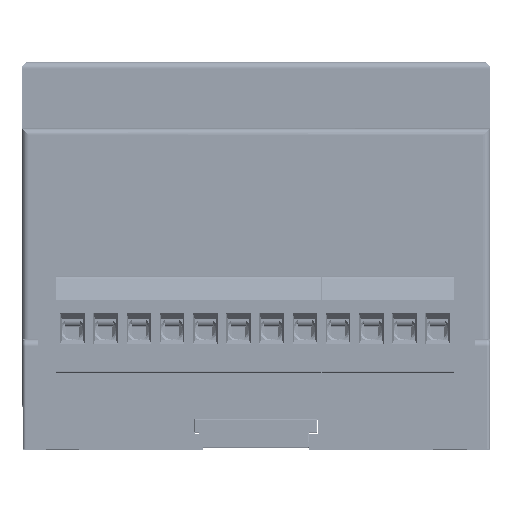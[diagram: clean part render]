
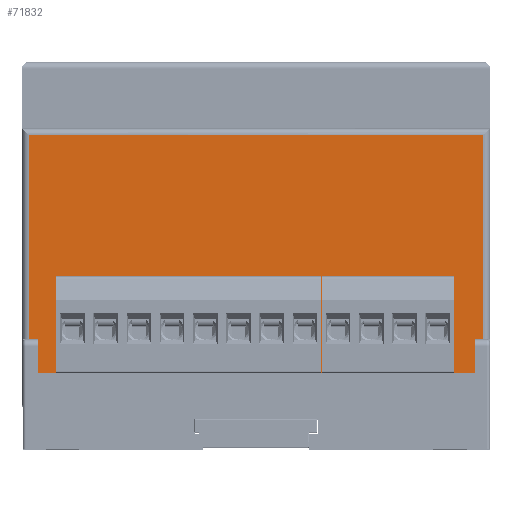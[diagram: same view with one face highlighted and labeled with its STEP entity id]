
A CAD part, top view. The second image highlights one B-rep face of the part: STEP entity #71832.
In plain terms, the highlighted planar face has unit normal (0, 0, 1).
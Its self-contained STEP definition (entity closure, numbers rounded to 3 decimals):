
#993 = VERTEX_POINT ( 'NONE', #4190 ) ;
#4190 = CARTESIAN_POINT ( 'NONE',  ( 69.5, -9., 0. ) ) ;
#6595 = VECTOR ( 'NONE', #217903, 1000. ) ;
#15566 = ORIENTED_EDGE ( 'NONE', *, *, #209081, .T. ) ;
#17123 = LINE ( 'NONE', #96138, #119976 ) ;
#20153 = PLANE ( 'NONE',  #202647 ) ;
#26742 = VECTOR ( 'NONE', #64701, 1000. ) ;
#29003 = EDGE_CURVE ( 'NONE', #177572, #993, #72668, .T. ) ;
#29044 = LINE ( 'NONE', #193554, #115608 ) ;
#40286 = LINE ( 'NONE', #135643, #218811 ) ;
#42444 = ORIENTED_EDGE ( 'NONE', *, *, #98927, .F. ) ;
#46449 = DIRECTION ( 'NONE',  ( 0., -1., 0. ) ) ;
#49448 = CARTESIAN_POINT ( 'NONE',  ( 3., -5., 0. ) ) ;
#51736 = EDGE_LOOP ( 'NONE', ( #126757, #15566, #138539, #115134, #42444, #120037, #93649, #223911, #203217, #158194 ) ) ;
#52341 = CARTESIAN_POINT ( 'NONE',  ( 1.5, -5., 0. ) ) ;
#53718 = EDGE_CURVE ( 'NONE', #176367, #69587, #64775, .T. ) ;
#54891 = CARTESIAN_POINT ( 'NONE',  ( 0., 31.8, 0. ) ) ;
#56411 = LINE ( 'NONE', #64480, #96911 ) ;
#56450 = VERTEX_POINT ( 'NONE', #114351 ) ;
#58502 = VERTEX_POINT ( 'NONE', #214385 ) ;
#64480 = CARTESIAN_POINT ( 'NONE',  ( 1.5, -9., 0. ) ) ;
#64701 = DIRECTION ( 'NONE',  ( 1., 0., 0. ) ) ;
#64775 = LINE ( 'NONE', #202217, #110839 ) ;
#69587 = VERTEX_POINT ( 'NONE', #124066 ) ;
#71832 = ADVANCED_FACE ( 'NONE', ( #179909 ), #20153, .F. ) ;
#72223 = DIRECTION ( 'NONE',  ( -1., 0., 0. ) ) ;
#72668 = LINE ( 'NONE', #99489, #26742 ) ;
#72950 = CARTESIAN_POINT ( 'NONE',  ( 69.5, 30.8, 0. ) ) ;
#79489 = CARTESIAN_POINT ( 'NONE',  ( 67.5, -5., 0. ) ) ;
#80089 = CARTESIAN_POINT ( 'NONE',  ( 1.5, -9., 0. ) ) ;
#81801 = DIRECTION ( 'NONE',  ( 1., 0., 0. ) ) ;
#83814 = CARTESIAN_POINT ( 'NONE',  ( 1.5, -6.5, 0. ) ) ;
#93649 = ORIENTED_EDGE ( 'NONE', *, *, #129531, .T. ) ;
#94025 = CARTESIAN_POINT ( 'NONE',  ( 1.5, -6.5, 0. ) ) ;
#96138 = CARTESIAN_POINT ( 'NONE',  ( 1.5, -5., 0. ) ) ;
#96911 = VECTOR ( 'NONE', #81801, 1000. ) ;
#98927 = EDGE_CURVE ( 'NONE', #58502, #221694, #216557, .T. ) ;
#99489 = CARTESIAN_POINT ( 'NONE',  ( 70.5, -9., 0. ) ) ;
#100315 = VECTOR ( 'NONE', #173294, 1000. ) ;
#100810 = DIRECTION ( 'NONE',  ( 0., -1., 0. ) ) ;
#103172 = EDGE_CURVE ( 'NONE', #993, #165576, #180960, .T. ) ;
#105096 = EDGE_CURVE ( 'NONE', #133868, #221694, #166476, .T. ) ;
#107344 = DIRECTION ( 'NONE',  ( -1., 0., 0. ) ) ;
#110839 = VECTOR ( 'NONE', #46449, 1000. ) ;
#113314 = VECTOR ( 'NONE', #171078, 1000. ) ;
#114351 = CARTESIAN_POINT ( 'NONE',  ( 69., -6.5, 0. ) ) ;
#115134 = ORIENTED_EDGE ( 'NONE', *, *, #105096, .T. ) ;
#115608 = VECTOR ( 'NONE', #107344, 1000. ) ;
#117691 = CARTESIAN_POINT ( 'NONE',  ( 1., 30.8, 0. ) ) ;
#118964 = CARTESIAN_POINT ( 'NONE',  ( 69.5, 31.8, 0. ) ) ;
#119976 = VECTOR ( 'NONE', #217124, 1000. ) ;
#120037 = ORIENTED_EDGE ( 'NONE', *, *, #190910, .T. ) ;
#120529 = VECTOR ( 'NONE', #188248, 1000. ) ;
#124066 = CARTESIAN_POINT ( 'NONE',  ( 1., -9., 0. ) ) ;
#126757 = ORIENTED_EDGE ( 'NONE', *, *, #53718, .T. ) ;
#129531 = EDGE_CURVE ( 'NONE', #56450, #177572, #40286, .T. ) ;
#133868 = VERTEX_POINT ( 'NONE', #94025 ) ;
#135643 = CARTESIAN_POINT ( 'NONE',  ( 69., -5., 0. ) ) ;
#138539 = ORIENTED_EDGE ( 'NONE', *, *, #170387, .F. ) ;
#158194 = ORIENTED_EDGE ( 'NONE', *, *, #196714, .T. ) ;
#158604 = CARTESIAN_POINT ( 'NONE',  ( 69., -9., 0. ) ) ;
#165576 = VERTEX_POINT ( 'NONE', #72950 ) ;
#166476 = LINE ( 'NONE', #83814, #120529 ) ;
#170387 = EDGE_CURVE ( 'NONE', #133868, #220556, #17123, .T. ) ;
#171078 = DIRECTION ( 'NONE',  ( 0., 1., 0. ) ) ;
#173294 = DIRECTION ( 'NONE',  ( -1., 0., 0. ) ) ;
#175812 = DIRECTION ( 'NONE',  ( 0., 0., -1. ) ) ;
#176367 = VERTEX_POINT ( 'NONE', #117691 ) ;
#177572 = VERTEX_POINT ( 'NONE', #158604 ) ;
#179909 = FACE_OUTER_BOUND ( 'NONE', #51736, .T. ) ;
#180960 = LINE ( 'NONE', #118964, #113314 ) ;
#188248 = DIRECTION ( 'NONE',  ( 0.707, 0.707, 0. ) ) ;
#190594 = LINE ( 'NONE', #79489, #6595 ) ;
#190910 = EDGE_CURVE ( 'NONE', #58502, #56450, #190594, .T. ) ;
#193554 = CARTESIAN_POINT ( 'NONE',  ( 0., 30.8, 0. ) ) ;
#196714 = EDGE_CURVE ( 'NONE', #165576, #176367, #29044, .T. ) ;
#202217 = CARTESIAN_POINT ( 'NONE',  ( 1., 31.8, 0. ) ) ;
#202647 = AXIS2_PLACEMENT_3D ( 'NONE', #54891, #175812, #72223 ) ;
#203217 = ORIENTED_EDGE ( 'NONE', *, *, #103172, .T. ) ;
#209081 = EDGE_CURVE ( 'NONE', #69587, #220556, #56411, .T. ) ;
#214385 = CARTESIAN_POINT ( 'NONE',  ( 67.5, -5., 0. ) ) ;
#216557 = LINE ( 'NONE', #52341, #100315 ) ;
#217124 = DIRECTION ( 'NONE',  ( 0., -1., 0. ) ) ;
#217903 = DIRECTION ( 'NONE',  ( 0.707, -0.707, 0. ) ) ;
#218811 = VECTOR ( 'NONE', #100810, 1000. ) ;
#220556 = VERTEX_POINT ( 'NONE', #80089 ) ;
#221694 = VERTEX_POINT ( 'NONE', #49448 ) ;
#223911 = ORIENTED_EDGE ( 'NONE', *, *, #29003, .T. ) ;
